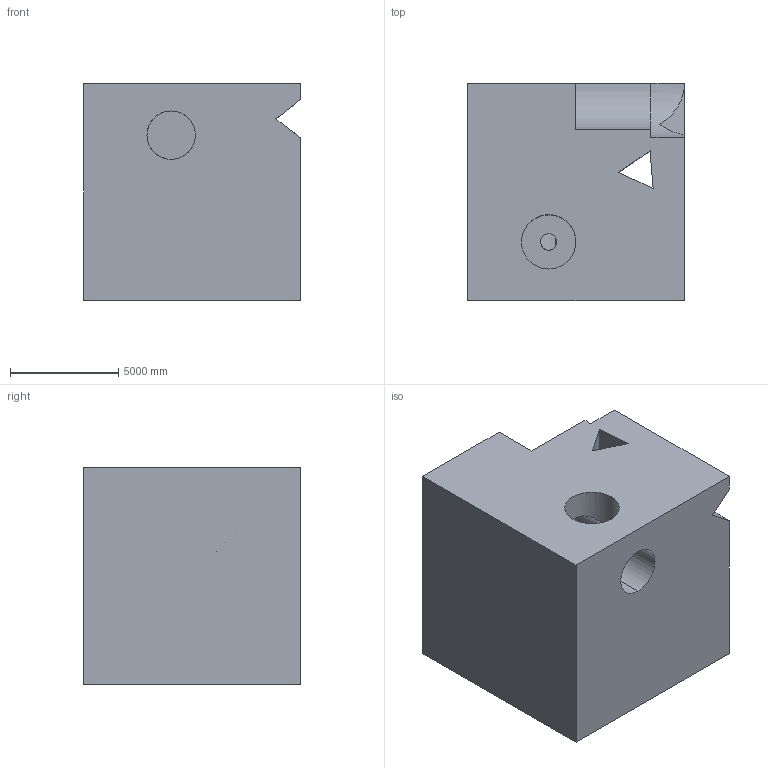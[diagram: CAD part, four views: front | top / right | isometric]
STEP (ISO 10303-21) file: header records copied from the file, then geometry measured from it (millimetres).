
FILE_DESCRIPTION (( 'STEP AP203' ), '1' );
FILE_NAME ('1697.STEP', '2022-08-19T11:49:06', ( 'user' ), ( '' ), 'SwSTEP 2.0', 'SolidWorks 2021', '' );
FILE_SCHEMA (( 'CONFIG_CONTROL_DESIGN' ));
Length unit declared in the file: centimetre
Products named in the file (1): 1697
Bounding box: 10000 x 10000 x 10000 mm (x, y, z)
Volume: 894395837893.2 mm3; surface area: 740647135.9 mm2
Topology: 1 solids, 1 shells, 29 faces, 80 edges, 53 vertices
Faces by surface type: plane 18, cylinder 11
Entity records: 1892 total; most frequent: CARTESIAN_POINT 1076, ORIENTED_EDGE 160, DIRECTION 142, EDGE_CURVE 80, LINE 54, VECTOR 54, VERTEX_POINT 53, AXIS2_PLACEMENT_3D 44
